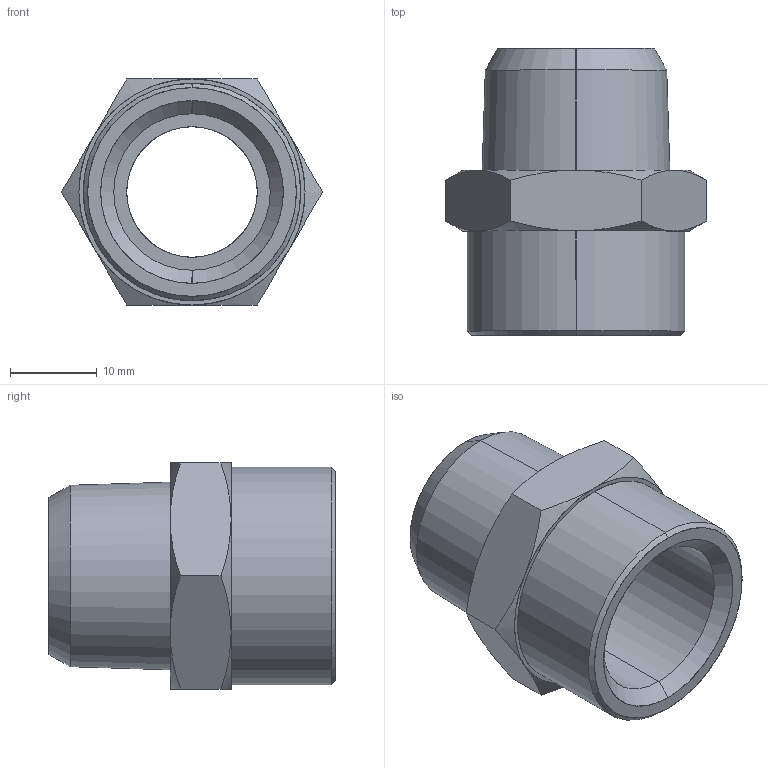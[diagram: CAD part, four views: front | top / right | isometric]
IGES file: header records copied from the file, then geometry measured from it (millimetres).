
Start section: SolidWorks IGES file using analytic representation for surfaces
Global section: file name: K:\Disegni Esecutivi\Accessori\2040\ASSIEMI_.IGES_2040\020400001AG00.IGS; native system: SolidWorks 2007; preprocessor: SolidWorks 2007; author: cad02; date: 071018.114607; units: millimetre
Bounding box: 30.02 x 33 x 26 mm (x, y, z)
Surface area: 4789.8 mm2 (no closed solid volume)
Topology: 0 solids, 0 shells, 39 faces, 632 edges, 632 vertices
Faces by surface type: revolution 28, bspline 11
